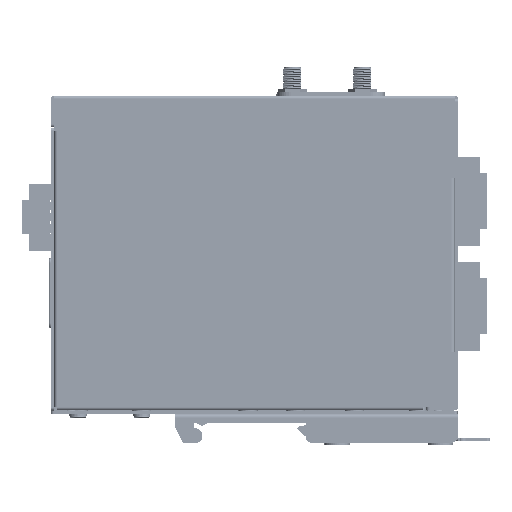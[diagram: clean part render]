
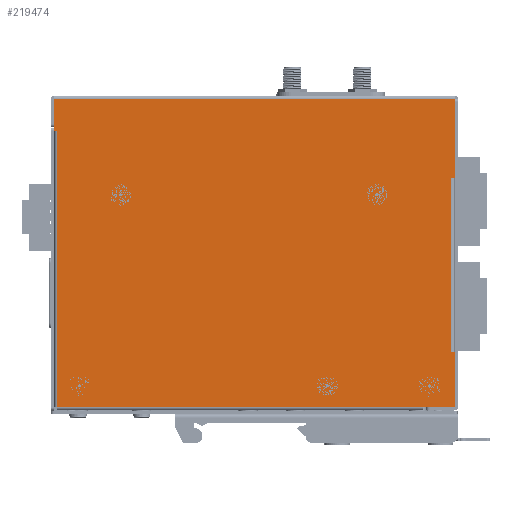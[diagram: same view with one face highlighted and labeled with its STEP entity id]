
A CAD part, left-side view. The second image highlights one B-rep face of the part: STEP entity #219474.
In plain terms, the highlighted planar face has unit normal (-1, 0, 0) as drawn and (0, -1, 0) by its records, which use the part's own axes.
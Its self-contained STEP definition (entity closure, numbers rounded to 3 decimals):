
#213622=DIRECTION('',(-1.,0.,0.));
#213623=VECTOR('',#213622,1.);
#213624=CARTESIAN_POINT('',(62.9,-13.5,24.6));
#213625=LINE('',#213624,#213623);
#213629=DIRECTION('',(-1.,0.,0.));
#213630=VECTOR('',#213629,1.);
#213631=CARTESIAN_POINT('',(62.9,-13.5,-30.));
#213632=LINE('',#213631,#213630);
#213636=DIRECTION('',(0.,0.,-1.));
#213637=VECTOR('',#213636,17.4);
#213638=CARTESIAN_POINT('',(62.9,-13.5,-30.));
#213639=LINE('',#213638,#213637);
#213643=DIRECTION('',(-1.,0.,0.));
#213644=VECTOR('',#213643,10.);
#213645=CARTESIAN_POINT('',(62.9,-13.5,-47.4));
#213646=LINE('',#213645,#213644);
#213650=DIRECTION('',(-1.,0.,0.));
#213651=VECTOR('',#213650,1.);
#213652=CARTESIAN_POINT('',(-61.9,-13.5,39.5));
#213653=LINE('',#213652,#213651);
#213657=DIRECTION('',(0.,0.,-1.));
#213658=VECTOR('',#213657,10.);
#213659=CARTESIAN_POINT('',(-62.9,-13.5,49.5));
#213660=LINE('',#213659,#213658);
#213664=DIRECTION('',(0.,0.,-1.));
#213665=VECTOR('',#213664,24.9);
#213666=CARTESIAN_POINT('',(62.9,-13.5,49.5));
#213667=LINE('',#213666,#213665);
#213671=CARTESIAN_POINT('',(55.,-13.5,-40.7));
#213672=DIRECTION('',(0.,-1.,0.));
#213673=DIRECTION('',(0.,0.,-1.));
#213674=AXIS2_PLACEMENT_3D('',#213671,#213672,#213673);
#213679=CARTESIAN_POINT('',(55.,-13.5,-40.7));
#213680=DIRECTION('',(0.,-1.,0.));
#213681=DIRECTION('',(0.,0.,1.));
#213682=AXIS2_PLACEMENT_3D('',#213679,#213680,#213681);
#213687=CARTESIAN_POINT('',(23.,-13.5,-40.7));
#213688=DIRECTION('',(0.,-1.,0.));
#213689=DIRECTION('',(0.,0.,-1.));
#213690=AXIS2_PLACEMENT_3D('',#213687,#213688,#213689);
#213695=CARTESIAN_POINT('',(23.,-13.5,-40.7));
#213696=DIRECTION('',(0.,-1.,0.));
#213697=DIRECTION('',(0.,0.,1.));
#213698=AXIS2_PLACEMENT_3D('',#213695,#213696,#213697);
#213703=CARTESIAN_POINT('',(38.5,-13.5,19.3));
#213704=DIRECTION('',(0.,-1.,0.));
#213705=DIRECTION('',(0.,0.,-1.));
#213706=AXIS2_PLACEMENT_3D('',#213703,#213704,#213705);
#213711=CARTESIAN_POINT('',(38.5,-13.5,19.3));
#213712=DIRECTION('',(0.,-1.,0.));
#213713=DIRECTION('',(0.,0.,1.));
#213714=AXIS2_PLACEMENT_3D('',#213711,#213712,#213713);
#213719=CARTESIAN_POINT('',(-55.,-13.5,-40.7));
#213720=DIRECTION('',(0.,-1.,0.));
#213721=DIRECTION('',(0.,0.,-1.));
#213722=AXIS2_PLACEMENT_3D('',#213719,#213720,#213721);
#213727=CARTESIAN_POINT('',(-55.,-13.5,-40.7));
#213728=DIRECTION('',(0.,-1.,0.));
#213729=DIRECTION('',(0.,0.,1.));
#213730=AXIS2_PLACEMENT_3D('',#213727,#213728,#213729);
#213735=CARTESIAN_POINT('',(-42.,-13.5,19.3));
#213736=DIRECTION('',(0.,-1.,0.));
#213737=DIRECTION('',(0.,0.,-1.));
#213738=AXIS2_PLACEMENT_3D('',#213735,#213736,#213737);
#213743=CARTESIAN_POINT('',(-42.,-13.5,19.3));
#213744=DIRECTION('',(0.,-1.,0.));
#213745=DIRECTION('',(0.,0.,1.));
#213746=AXIS2_PLACEMENT_3D('',#213743,#213744,#213745);
#213794=DIRECTION('',(0.,0.,-1.));
#213795=VECTOR('',#213794,54.6);
#213796=CARTESIAN_POINT('',(61.9,-13.5,24.6));
#213797=LINE('',#213796,#213795);
#214313=DIRECTION('',(0.,0.,1.));
#214314=VECTOR('',#214313,86.9);
#214315=CARTESIAN_POINT('',(-61.9,-13.5,-47.4));
#214316=LINE('',#214315,#214314);
#214342=DIRECTION('',(-1.,0.,0.));
#214343=VECTOR('',#214342,114.8);
#214344=CARTESIAN_POINT('',(52.9,-13.5,-47.4));
#214345=LINE('',#214344,#214343);
#214876=DIRECTION('',(1.,0.,0.));
#214877=VECTOR('',#214876,125.8);
#214878=CARTESIAN_POINT('',(-62.9,-13.5,49.5));
#214879=LINE('',#214878,#214877);
#217414=CARTESIAN_POINT('',(-62.9,-13.5,49.5));
#217415=VERTEX_POINT('',#217414);
#217433=CARTESIAN_POINT('',(62.9,-13.5,49.5));
#217435=VERTEX_POINT('',#217433);
#217439=CARTESIAN_POINT('',(62.9,-13.5,-47.4));
#217441=VERTEX_POINT('',#217439);
#217462=CARTESIAN_POINT('',(52.9,-13.5,-47.4));
#217463=VERTEX_POINT('',#217462);
#217682=CARTESIAN_POINT('',(-62.9,-13.5,39.5));
#217683=VERTEX_POINT('',#217682);
#217754=CARTESIAN_POINT('',(-61.9,-13.5,39.5));
#217755=VERTEX_POINT('',#217754);
#217756=CARTESIAN_POINT('',(-61.9,-13.5,-47.4));
#217757=VERTEX_POINT('',#217756);
#217824=CARTESIAN_POINT('',(62.9,-13.5,24.6));
#217825=CARTESIAN_POINT('',(61.9,-13.5,24.6));
#217826=VERTEX_POINT('',#217824);
#217827=VERTEX_POINT('',#217825);
#217828=CARTESIAN_POINT('',(62.9,-13.5,-30.));
#217829=CARTESIAN_POINT('',(61.9,-13.5,-30.));
#217830=VERTEX_POINT('',#217828);
#217831=VERTEX_POINT('',#217829);
#218193=CARTESIAN_POINT('',(55.,-13.5,-41.2));
#218194=CARTESIAN_POINT('',(55.,-13.5,-40.2));
#218195=VERTEX_POINT('',#218193);
#218196=VERTEX_POINT('',#218194);
#218197=CARTESIAN_POINT('',(23.,-13.5,-41.2));
#218198=CARTESIAN_POINT('',(23.,-13.5,-40.2));
#218199=VERTEX_POINT('',#218197);
#218200=VERTEX_POINT('',#218198);
#218201=CARTESIAN_POINT('',(38.5,-13.5,18.8));
#218202=CARTESIAN_POINT('',(38.5,-13.5,19.8));
#218203=VERTEX_POINT('',#218201);
#218204=VERTEX_POINT('',#218202);
#218205=CARTESIAN_POINT('',(-55.,-13.5,-41.2));
#218206=CARTESIAN_POINT('',(-55.,-13.5,-40.2));
#218207=VERTEX_POINT('',#218205);
#218208=VERTEX_POINT('',#218206);
#218209=CARTESIAN_POINT('',(-42.,-13.5,18.8));
#218210=CARTESIAN_POINT('',(-42.,-13.5,19.8));
#218211=VERTEX_POINT('',#218209);
#218212=VERTEX_POINT('',#218210);
#219417=CARTESIAN_POINT('',(0.,-13.5,0.));
#219418=DIRECTION('',(0.,1.,0.));
#219419=DIRECTION('',(1.,0.,0.));
#219420=AXIS2_PLACEMENT_3D('',#219417,#219418,#219419);
#219421=PLANE('',#219420);
#219423=ORIENTED_EDGE('',*,*,#219422,.T.);
#219425=ORIENTED_EDGE('',*,*,#219424,.T.);
#219427=ORIENTED_EDGE('',*,*,#219426,.F.);
#219429=ORIENTED_EDGE('',*,*,#219428,.T.);
#219431=ORIENTED_EDGE('',*,*,#219430,.T.);
#219433=ORIENTED_EDGE('',*,*,#219432,.T.);
#219435=ORIENTED_EDGE('',*,*,#219434,.T.);
#219436=ORIENTED_EDGE('',*,*,#219395,.T.);
#219437=ORIENTED_EDGE('',*,*,#219373,.F.);
#219439=ORIENTED_EDGE('',*,*,#219438,.T.);
#219441=ORIENTED_EDGE('',*,*,#219440,.T.);
#219442=EDGE_LOOP('',(#219423,#219425,#219427,#219429,#219431,#219433,#219435,
#219436,#219437,#219439,#219441));
#219443=FACE_OUTER_BOUND('',#219442,.F.);
#219445=ORIENTED_EDGE('',*,*,#219444,.T.);
#219447=ORIENTED_EDGE('',*,*,#219446,.T.);
#219448=EDGE_LOOP('',(#219445,#219447));
#219449=FACE_BOUND('',#219448,.F.);
#219451=ORIENTED_EDGE('',*,*,#219450,.T.);
#219453=ORIENTED_EDGE('',*,*,#219452,.T.);
#219454=EDGE_LOOP('',(#219451,#219453));
#219455=FACE_BOUND('',#219454,.F.);
#219457=ORIENTED_EDGE('',*,*,#219456,.T.);
#219459=ORIENTED_EDGE('',*,*,#219458,.T.);
#219460=EDGE_LOOP('',(#219457,#219459));
#219461=FACE_BOUND('',#219460,.F.);
#219463=ORIENTED_EDGE('',*,*,#219462,.T.);
#219465=ORIENTED_EDGE('',*,*,#219464,.T.);
#219466=EDGE_LOOP('',(#219463,#219465));
#219467=FACE_BOUND('',#219466,.F.);
#219469=ORIENTED_EDGE('',*,*,#219468,.T.);
#219471=ORIENTED_EDGE('',*,*,#219470,.T.);
#219472=EDGE_LOOP('',(#219469,#219471));
#219473=FACE_BOUND('',#219472,.F.);
#213675=CIRCLE('',#213674,0.5);
#213683=CIRCLE('',#213682,0.5);
#213691=CIRCLE('',#213690,0.5);
#213699=CIRCLE('',#213698,0.5);
#213707=CIRCLE('',#213706,0.5);
#213715=CIRCLE('',#213714,0.5);
#213723=CIRCLE('',#213722,0.5);
#213731=CIRCLE('',#213730,0.5);
#213739=CIRCLE('',#213738,0.5);
#213747=CIRCLE('',#213746,0.5);
#219373=EDGE_CURVE('',#217415,#217683,#213660,.T.);
#219395=EDGE_CURVE('',#217755,#217683,#213653,.T.);
#219422=EDGE_CURVE('',#217826,#217827,#213625,.T.);
#219424=EDGE_CURVE('',#217827,#217831,#213797,.T.);
#219426=EDGE_CURVE('',#217830,#217831,#213632,.T.);
#219428=EDGE_CURVE('',#217830,#217441,#213639,.T.);
#219430=EDGE_CURVE('',#217441,#217463,#213646,.T.);
#219432=EDGE_CURVE('',#217463,#217757,#214345,.T.);
#219434=EDGE_CURVE('',#217757,#217755,#214316,.T.);
#219438=EDGE_CURVE('',#217415,#217435,#214879,.T.);
#219440=EDGE_CURVE('',#217435,#217826,#213667,.T.);
#219444=EDGE_CURVE('',#218195,#218196,#213675,.T.);
#219446=EDGE_CURVE('',#218196,#218195,#213683,.T.);
#219450=EDGE_CURVE('',#218199,#218200,#213691,.T.);
#219452=EDGE_CURVE('',#218200,#218199,#213699,.T.);
#219456=EDGE_CURVE('',#218203,#218204,#213707,.T.);
#219458=EDGE_CURVE('',#218204,#218203,#213715,.T.);
#219462=EDGE_CURVE('',#218207,#218208,#213723,.T.);
#219464=EDGE_CURVE('',#218208,#218207,#213731,.T.);
#219468=EDGE_CURVE('',#218211,#218212,#213739,.T.);
#219470=EDGE_CURVE('',#218212,#218211,#213747,.T.);
#219474=ADVANCED_FACE('',(#219443,#219449,#219455,#219461,#219467,#219473),
#219421,.F.);
